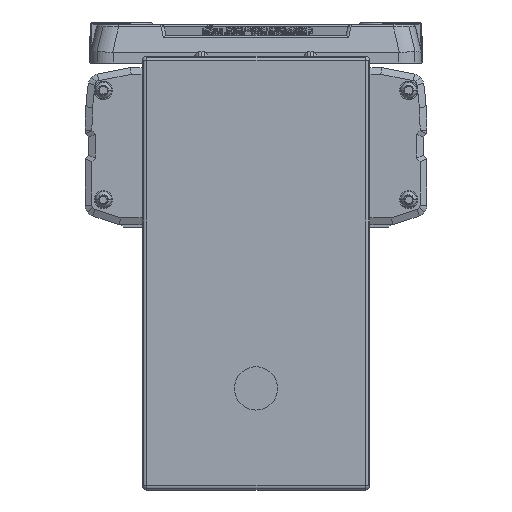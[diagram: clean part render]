
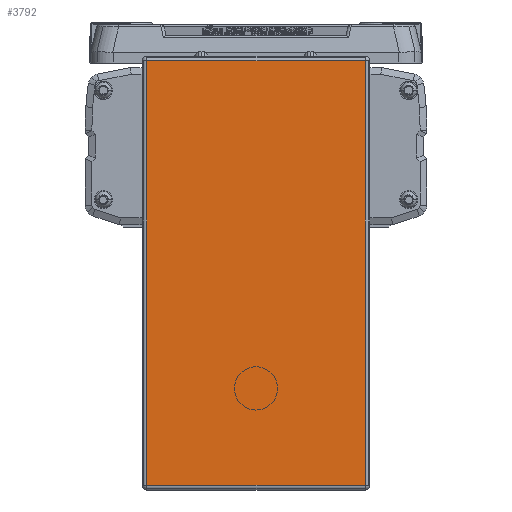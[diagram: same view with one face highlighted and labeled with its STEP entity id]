
A CAD part, left-side view. The second image highlights one B-rep face of the part: STEP entity #3792.
In plain terms, the highlighted planar face has unit normal (-1, 0, 0).
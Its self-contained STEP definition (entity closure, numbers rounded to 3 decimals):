
#3792=ADVANCED_FACE('',(#9279),#9280,.T.);
#9279=FACE_OUTER_BOUND('',#17214,.T.);
#9280=PLANE('',#17215);
#17214=EDGE_LOOP('',(#28431,#28432,#28433,#28434));
#17215=AXIS2_PLACEMENT_3D('',#28435,#28436,#28437);
#28431=ORIENTED_EDGE('',*,*,#47909,.F.);
#28432=ORIENTED_EDGE('',*,*,#47910,.F.);
#28433=ORIENTED_EDGE('',*,*,#47459,.F.);
#28434=ORIENTED_EDGE('',*,*,#45659,.F.);
#28435=CARTESIAN_POINT('',(-45.,0.,-64.2));
#28436=DIRECTION('',(-1.0,0.,0.));
#28437=DIRECTION('',(0.,1.0,0.));
#45659=EDGE_CURVE('',#54083,#54085,#54086,.T.);
#47459=EDGE_CURVE('',#54085,#57163,#57164,.T.);
#47909=EDGE_CURVE('',#57877,#54083,#57878,.T.);
#47910=EDGE_CURVE('',#57163,#57877,#57879,.T.);
#54083=VERTEX_POINT('',#66465);
#54085=VERTEX_POINT('',#66467);
#54086=LINE('',#66468,#66469);
#57163=VERTEX_POINT('',#70706);
#57164=LINE('',#70707,#70708);
#57877=VERTEX_POINT('',#71695);
#57878=LINE('',#71696,#71697);
#57879=LINE('',#71698,#71699);
#66465=CARTESIAN_POINT('',(-45.,-48.,29.));
#66467=CARTESIAN_POINT('',(-45.,-48.,-157.4));
#66468=CARTESIAN_POINT('',(-45.,-48.,-64.2));
#66469=VECTOR('',#84269,10.0);
#70706=CARTESIAN_POINT('',(-45.,48.,-157.4));
#70707=CARTESIAN_POINT('',(-45.,0.,-157.4));
#70708=VECTOR('',#86743,10.0);
#71695=CARTESIAN_POINT('',(-45.,48.,29.));
#71696=CARTESIAN_POINT('',(-45.,0.,29.));
#71697=VECTOR('',#87351,10.0);
#71698=CARTESIAN_POINT('',(-45.,48.,-64.2));
#71699=VECTOR('',#87352,10.0);
#84269=DIRECTION('',(0.,0.,-1.0));
#86743=DIRECTION('',(0.0,1.0,0.));
#87351=DIRECTION('',(0.0,-1.0,0.));
#87352=DIRECTION('',(0.,0.,1.0));
